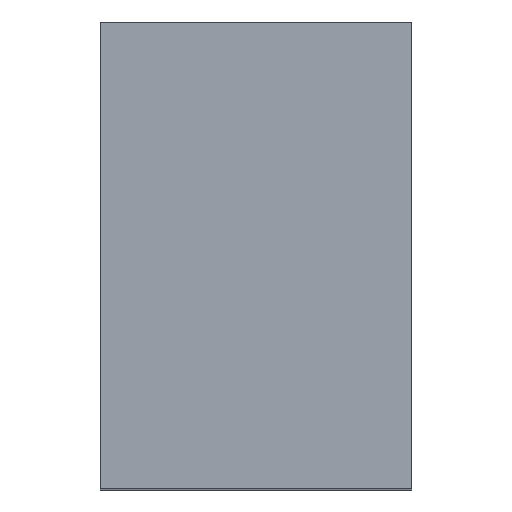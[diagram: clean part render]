
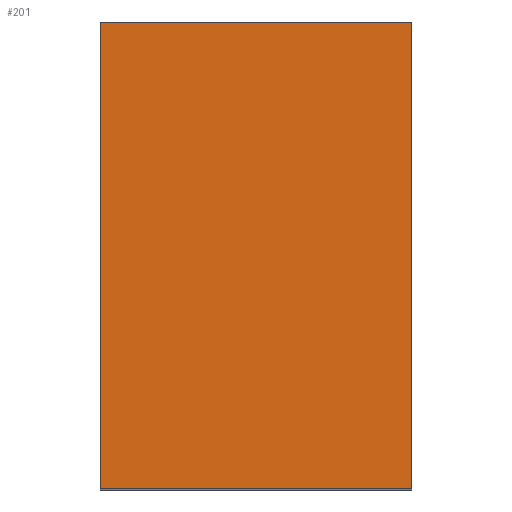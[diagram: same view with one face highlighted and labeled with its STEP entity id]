
A CAD part, top view. The second image highlights one B-rep face of the part: STEP entity #201.
In plain terms, the highlighted planar face has unit normal (0, 0, 1).
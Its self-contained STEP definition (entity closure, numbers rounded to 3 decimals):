
#18=CARTESIAN_POINT('',(0.,0.,5000.));
#19=VERTEX_POINT('',#18);
#20=CARTESIAN_POINT('',(2000.,0.,5000.));
#21=VERTEX_POINT('',#20);
#22=CARTESIAN_POINT('',(2000.,3000.,5000.));
#23=VERTEX_POINT('',#22);
#24=CARTESIAN_POINT('',(0.,3000.,5000.));
#25=VERTEX_POINT('',#24);
#78=CARTESIAN_POINT('',(0.,0.,5000.));
#79=DIRECTION('',(1.,0.,0.));
#80=VECTOR('',#79,1000.);
#81=LINE('',#78,#80);
#82=EDGE_CURVE('',#19,#21,#81,.T.);
#83=CARTESIAN_POINT('',(2000.,0.,5000.));
#84=DIRECTION('',(0.,1.,0.));
#85=VECTOR('',#84,1000.);
#86=LINE('',#83,#85);
#87=EDGE_CURVE('',#21,#23,#86,.T.);
#88=CARTESIAN_POINT('',(2000.,3000.,5000.));
#89=DIRECTION('',(-1.,0.,0.));
#90=VECTOR('',#89,1000.);
#91=LINE('',#88,#90);
#92=EDGE_CURVE('',#23,#25,#91,.T.);
#93=CARTESIAN_POINT('',(0.,3000.,5000.));
#94=DIRECTION('',(0.,-1.,0.));
#95=VECTOR('',#94,1000.);
#96=LINE('',#93,#95);
#97=EDGE_CURVE('',#25,#19,#96,.T.);
#190=CARTESIAN_POINT('',(0.,0.,5000.));
#191=DIRECTION('',(0.,0.,1.));
#192=DIRECTION('',(1.,0.,0.));
#193=AXIS2_PLACEMENT_3D('',#190,#191,#192);
#194=PLANE('',#193);
#195=ORIENTED_EDGE('',*,*,#82,.T.);
#196=ORIENTED_EDGE('',*,*,#87,.T.);
#197=ORIENTED_EDGE('',*,*,#92,.T.);
#198=ORIENTED_EDGE('',*,*,#97,.T.);
#199=EDGE_LOOP('',(#195,#196,#197,#198));
#200=FACE_OUTER_BOUND('',#199,.T.);
#201=ADVANCED_FACE('top',(#200),#194,.T.);
